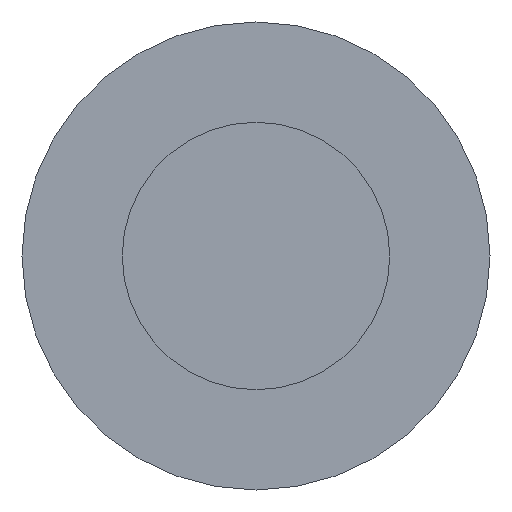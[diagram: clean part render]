
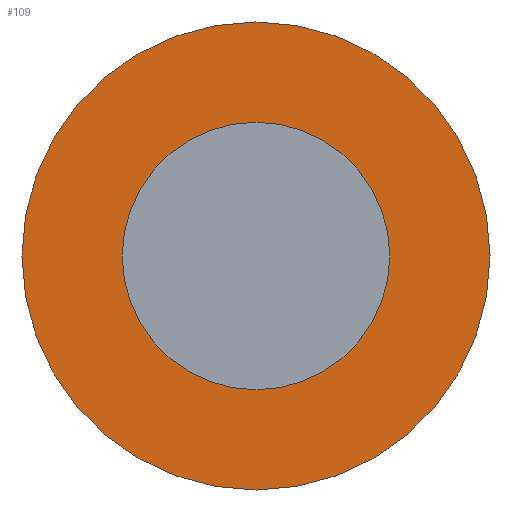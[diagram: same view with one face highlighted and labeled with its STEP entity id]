
A CAD part, left-side view. The second image highlights one B-rep face of the part: STEP entity #109.
In plain terms, the highlighted planar face has unit normal (-1, 0, 0).
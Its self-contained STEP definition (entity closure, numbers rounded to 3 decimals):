
#31 = CYLINDRICAL_SURFACE('',#32,1.75);
#32 = AXIS2_PLACEMENT_3D('',#33,#34,#35);
#33 = CARTESIAN_POINT('',(45.3,-4.5,-17.));
#34 = DIRECTION('',(1.,0.,0.));
#35 = DIRECTION('',(0.,0.,-1.));
#56 = VERTEX_POINT('',#57);
#57 = CARTESIAN_POINT('',(45.3,-4.5,-18.75));
#78 = EDGE_CURVE('',#56,#56,#79,.T.);
#79 = SURFACE_CURVE('',#80,(#85,#92),.PCURVE_S1.);
#80 = CIRCLE('',#81,1.75);
#81 = AXIS2_PLACEMENT_3D('',#82,#83,#84);
#82 = CARTESIAN_POINT('',(45.3,-4.5,-17.));
#83 = DIRECTION('',(1.,-0.,0.));
#84 = DIRECTION('',(0.,0.,-1.));
#85 = PCURVE('',#31,#86);
#86 = DEFINITIONAL_REPRESENTATION('',(#87),#91);
#87 = LINE('',#88,#89);
#88 = CARTESIAN_POINT('',(0.,0.));
#89 = VECTOR('',#90,1.);
#90 = DIRECTION('',(1.,0.));
#91 = ( GEOMETRIC_REPRESENTATION_CONTEXT(2) 
PARAMETRIC_REPRESENTATION_CONTEXT() REPRESENTATION_CONTEXT('2D SPACE',''
  ) );
#92 = PCURVE('',#93,#98);
#93 = PLANE('',#94);
#94 = AXIS2_PLACEMENT_3D('',#95,#96,#97);
#95 = CARTESIAN_POINT('',(45.3,-4.5,-17.));
#96 = DIRECTION('',(1.,0.,0.));
#97 = DIRECTION('',(0.,0.,-1.));
#98 = DEFINITIONAL_REPRESENTATION('',(#99),#103);
#99 = CIRCLE('',#100,1.75);
#100 = AXIS2_PLACEMENT_2D('',#101,#102);
#101 = CARTESIAN_POINT('',(0.,0.));
#102 = DIRECTION('',(1.,0.));
#103 = ( GEOMETRIC_REPRESENTATION_CONTEXT(2) 
PARAMETRIC_REPRESENTATION_CONTEXT() REPRESENTATION_CONTEXT('2D SPACE',''
  ) );
#109 = ADVANCED_FACE('',(#110,#113),#93,.F.);
#110 = FACE_BOUND('',#111,.F.);
#111 = EDGE_LOOP('',(#112));
#112 = ORIENTED_EDGE('',*,*,#78,.T.);
#113 = FACE_BOUND('',#114,.F.);
#114 = EDGE_LOOP('',(#115));
#115 = ORIENTED_EDGE('',*,*,#116,.F.);
#116 = EDGE_CURVE('',#117,#117,#119,.T.);
#117 = VERTEX_POINT('',#118);
#118 = CARTESIAN_POINT('',(45.3,-4.5,-18.));
#119 = SURFACE_CURVE('',#120,(#125,#132),.PCURVE_S1.);
#120 = CIRCLE('',#121,1.);
#121 = AXIS2_PLACEMENT_3D('',#122,#123,#124);
#122 = CARTESIAN_POINT('',(45.3,-4.5,-17.));
#123 = DIRECTION('',(1.,-0.,0.));
#124 = DIRECTION('',(0.,0.,-1.));
#125 = PCURVE('',#93,#126);
#126 = DEFINITIONAL_REPRESENTATION('',(#127),#131);
#127 = CIRCLE('',#128,1.);
#128 = AXIS2_PLACEMENT_2D('',#129,#130);
#129 = CARTESIAN_POINT('',(0.,0.));
#130 = DIRECTION('',(1.,0.));
#131 = ( GEOMETRIC_REPRESENTATION_CONTEXT(2) 
PARAMETRIC_REPRESENTATION_CONTEXT() REPRESENTATION_CONTEXT('2D SPACE',''
  ) );
#132 = PCURVE('',#133,#138);
#133 = CYLINDRICAL_SURFACE('',#134,1.);
#134 = AXIS2_PLACEMENT_3D('',#135,#136,#137);
#135 = CARTESIAN_POINT('',(35.3,-4.5,-17.));
#136 = DIRECTION('',(1.,0.,0.));
#137 = DIRECTION('',(0.,0.,-1.));
#138 = DEFINITIONAL_REPRESENTATION('',(#139),#143);
#139 = LINE('',#140,#141);
#140 = CARTESIAN_POINT('',(0.,10.));
#141 = VECTOR('',#142,1.);
#142 = DIRECTION('',(1.,0.));
#143 = ( GEOMETRIC_REPRESENTATION_CONTEXT(2) 
PARAMETRIC_REPRESENTATION_CONTEXT() REPRESENTATION_CONTEXT('2D SPACE',''
  ) );
